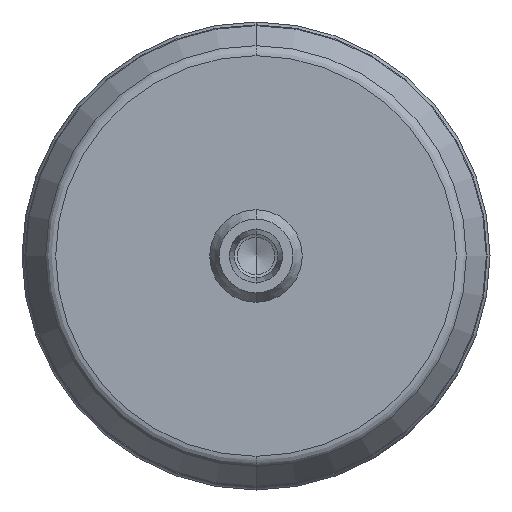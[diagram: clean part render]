
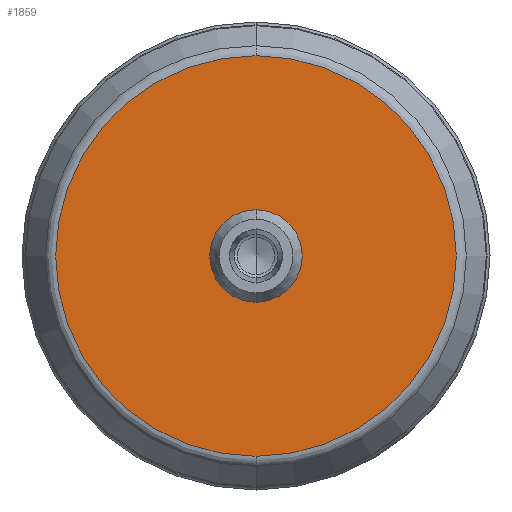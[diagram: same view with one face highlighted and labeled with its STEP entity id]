
A CAD part, front view. The second image highlights one B-rep face of the part: STEP entity #1859.
In plain terms, the highlighted planar face has unit normal (0, -1, 0).
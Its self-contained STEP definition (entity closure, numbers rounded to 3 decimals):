
#46 = CARTESIAN_POINT ( 'NONE',  ( 0., -17., 34.67 ) ) ;
#67 = VERTEX_POINT ( 'NONE', #46 ) ;
#114 = DIRECTION ( 'NONE',  ( 0., 0., -1. ) ) ;
#130 = ORIENTED_EDGE ( 'NONE', *, *, #1708, .F. ) ;
#264 = EDGE_CURVE ( 'NONE', #1546, #67, #1939, .T. ) ;
#298 = AXIS2_PLACEMENT_3D ( 'NONE', #1655, #1152, #114 ) ;
#405 = ORIENTED_EDGE ( 'NONE', *, *, #1637, .F. ) ;
#435 = AXIS2_PLACEMENT_3D ( 'NONE', #1094, #1922, #1761 ) ;
#542 = AXIS2_PLACEMENT_3D ( 'NONE', #993, #963, #1641 ) ;
#638 = AXIS2_PLACEMENT_3D ( 'NONE', #949, #1783, #1104 ) ;
#652 = CARTESIAN_POINT ( 'NONE',  ( 0., -17., -6. ) ) ;
#670 = CARTESIAN_POINT ( 'NONE',  ( 0., -17., 0. ) ) ;
#725 = FACE_OUTER_BOUND ( 'NONE', #1307, .T. ) ;
#751 = EDGE_LOOP ( 'NONE', ( #405, #130 ) ) ;
#761 = ORIENTED_EDGE ( 'NONE', *, *, #264, .T. ) ;
#948 = CIRCLE ( 'NONE', #542, 6. ) ;
#949 = CARTESIAN_POINT ( 'NONE',  ( 0., -17., 0. ) ) ;
#963 = DIRECTION ( 'NONE',  ( 0., -1., 0. ) ) ;
#974 = CARTESIAN_POINT ( 'NONE',  ( 0., -17., -34.67 ) ) ;
#993 = CARTESIAN_POINT ( 'NONE',  ( 0., -17., 0. ) ) ;
#1018 = ORIENTED_EDGE ( 'NONE', *, *, #1246, .T. ) ;
#1026 = CARTESIAN_POINT ( 'NONE',  ( 0., -17., 6. ) ) ;
#1054 = AXIS2_PLACEMENT_3D ( 'NONE', #670, #1362, #1888 ) ;
#1080 = PLANE ( 'NONE',  #435 ) ;
#1094 = CARTESIAN_POINT ( 'NONE',  ( 34.67, -17., 0. ) ) ;
#1104 = DIRECTION ( 'NONE',  ( 0., 0., -1. ) ) ;
#1127 = CIRCLE ( 'NONE', #298, 34.67 ) ;
#1136 = FACE_BOUND ( 'NONE', #751, .T. ) ;
#1152 = DIRECTION ( 'NONE',  ( 0., -1., 0. ) ) ;
#1246 = EDGE_CURVE ( 'NONE', #67, #1546, #1127, .T. ) ;
#1307 = EDGE_LOOP ( 'NONE', ( #761, #1018 ) ) ;
#1337 = VERTEX_POINT ( 'NONE', #1026 ) ;
#1362 = DIRECTION ( 'NONE',  ( 0., -1., 0. ) ) ;
#1546 = VERTEX_POINT ( 'NONE', #974 ) ;
#1637 = EDGE_CURVE ( 'NONE', #1956, #1337, #948, .T. ) ;
#1641 = DIRECTION ( 'NONE',  ( 0., 0., -1. ) ) ;
#1655 = CARTESIAN_POINT ( 'NONE',  ( 0., -17., 0. ) ) ;
#1708 = EDGE_CURVE ( 'NONE', #1337, #1956, #2099, .T. ) ;
#1761 = DIRECTION ( 'NONE',  ( 0., 0., -1. ) ) ;
#1783 = DIRECTION ( 'NONE',  ( 0., -1., 0. ) ) ;
#1859 = ADVANCED_FACE ( 'NONE', ( #725, #1136 ), #1080, .T. ) ;
#1888 = DIRECTION ( 'NONE',  ( 0., 0., -1. ) ) ;
#1922 = DIRECTION ( 'NONE',  ( 0., -1., 0. ) ) ;
#1939 = CIRCLE ( 'NONE', #638, 34.67 ) ;
#1956 = VERTEX_POINT ( 'NONE', #652 ) ;
#2099 = CIRCLE ( 'NONE', #1054, 6. ) ;
